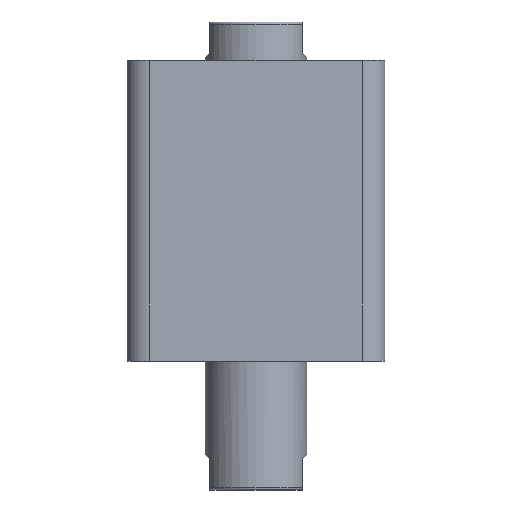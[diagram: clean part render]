
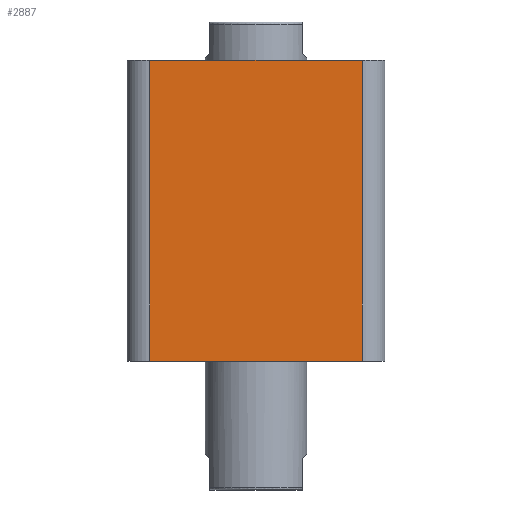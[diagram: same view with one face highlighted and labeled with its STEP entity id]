
A CAD part, front view. The second image highlights one B-rep face of the part: STEP entity #2887.
In plain terms, the highlighted planar face has unit normal (0, -1, 0).
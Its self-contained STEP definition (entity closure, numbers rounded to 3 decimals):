
#258 = FACE_OUTER_BOUND ( 'NONE', #1743, .T. ) ;
#476 = EDGE_CURVE ( 'NONE', #3108, #2032, #2048, .T. ) ;
#477 = EDGE_CURVE ( 'NONE', #3108, #3110, #2047, .T. ) ;
#478 = EDGE_CURVE ( 'NONE', #3112, #3110, #2045, .T. ) ;
#479 = EDGE_CURVE ( 'NONE', #2032, #3112, #2051, .T. ) ;
#886 = AXIS2_PLACEMENT_3D ( 'NONE', #2506, #2510, #2511 ) ;
#1528 = CARTESIAN_POINT ( 'NONE',  ( -47., -57., 0. ) ) ;
#1559 = CARTESIAN_POINT ( 'NONE',  ( 47., -57., 133. ) ) ;
#1562 = DIRECTION ( 'NONE',  ( 0., 0., -1. ) ) ;
#1637 = DIRECTION ( 'NONE',  ( 1., 0., 0. ) ) ;
#1638 = CARTESIAN_POINT ( 'NONE',  ( -57., -57., 0. ) ) ;
#1639 = DIRECTION ( 'NONE',  ( 0., 0., 1. ) ) ;
#1640 = DIRECTION ( 'NONE',  ( 1., 0., 0. ) ) ;
#1644 = CARTESIAN_POINT ( 'NONE',  ( -47., -57., 133. ) ) ;
#1645 = CARTESIAN_POINT ( 'NONE',  ( -57., -57., 133. ) ) ;
#1743 = EDGE_LOOP ( 'NONE', ( #1852, #1853, #1854, #1855 ) ) ;
#1852 = ORIENTED_EDGE ( 'NONE', *, *, #479, .T. ) ;
#1853 = ORIENTED_EDGE ( 'NONE', *, *, #478, .T. ) ;
#1854 = ORIENTED_EDGE ( 'NONE', *, *, #477, .F. ) ;
#1855 = ORIENTED_EDGE ( 'NONE', *, *, #476, .T. ) ;
#2032 = VERTEX_POINT ( 'NONE', #1528 ) ;
#2044 = VECTOR ( 'NONE', #1562, 1000. ) ;
#2045 = LINE ( 'NONE', #1559, #2050 ) ;
#2047 = LINE ( 'NONE', #1645, #2052 ) ;
#2048 = LINE ( 'NONE', #1644, #2044 ) ;
#2050 = VECTOR ( 'NONE', #1639, 1000. ) ;
#2051 = LINE ( 'NONE', #1638, #2053 ) ;
#2052 = VECTOR ( 'NONE', #1640, 1000. ) ;
#2053 = VECTOR ( 'NONE', #1637, 1000. ) ;
#2506 = CARTESIAN_POINT ( 'NONE',  ( -57., -57., 133. ) ) ;
#2508 = PLANE ( 'NONE',  #886 ) ;
#2510 = DIRECTION ( 'NONE',  ( 0., 1., 0. ) ) ;
#2511 = DIRECTION ( 'NONE',  ( 0., 0., 1. ) ) ;
#2699 = CARTESIAN_POINT ( 'NONE',  ( -47., -57., 133. ) ) ;
#2700 = CARTESIAN_POINT ( 'NONE',  ( 47., -57., 133. ) ) ;
#2701 = CARTESIAN_POINT ( 'NONE',  ( 47., -57., 0. ) ) ;
#2887 = ADVANCED_FACE ( 'NONE', ( #258 ), #2508, .F. ) ;
#3108 = VERTEX_POINT ( 'NONE', #2699 ) ;
#3110 = VERTEX_POINT ( 'NONE', #2700 ) ;
#3112 = VERTEX_POINT ( 'NONE', #2701 ) ;
